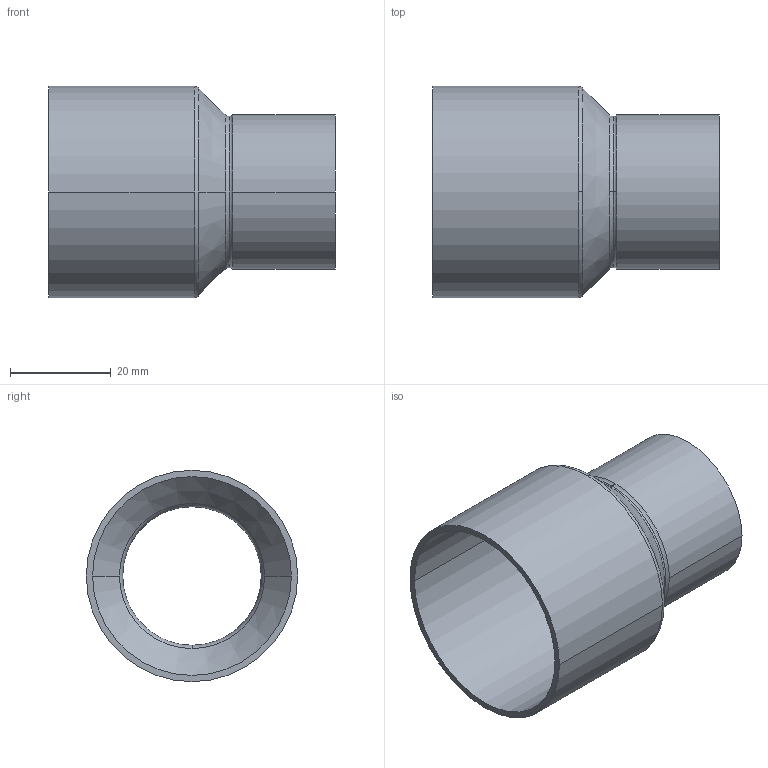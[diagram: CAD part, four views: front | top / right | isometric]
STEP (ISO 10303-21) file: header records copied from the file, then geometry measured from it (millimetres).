
FILE_DESCRIPTION((''),'2;1');
FILE_NAME('G:\Technics\CAD\Bauteile\Serie 15243\152434228.stp','2005-10-21T12:49:44',('boden'),(''),'Autodesk Inventor 8','Autodesk Inventor 8','');
FILE_SCHEMA(('AUTOMOTIVE_DESIGN { 1 0 10303 214 1 1 1 1 }'));
Length unit declared in the file: millimetre
Products named in the file (1): 152434228
Bounding box: 57 x 42 x 42 mm (x, y, z)
Volume: 8338.3 mm3; surface area: 13617.5 mm2
Topology: 1 solids, 1 shells, 24 faces, 60 edges, 38 vertices
Faces by surface type: cylinder 8, torus 6, bspline 4, cone 4, plane 2
Entity records: 931 total; most frequent: CARTESIAN_POINT 299, DIRECTION 150, ORIENTED_EDGE 120, AXIS2_PLACEMENT_3D 69, EDGE_CURVE 60, CIRCLE 48, VERTEX_POINT 38, EDGE_LOOP 26
